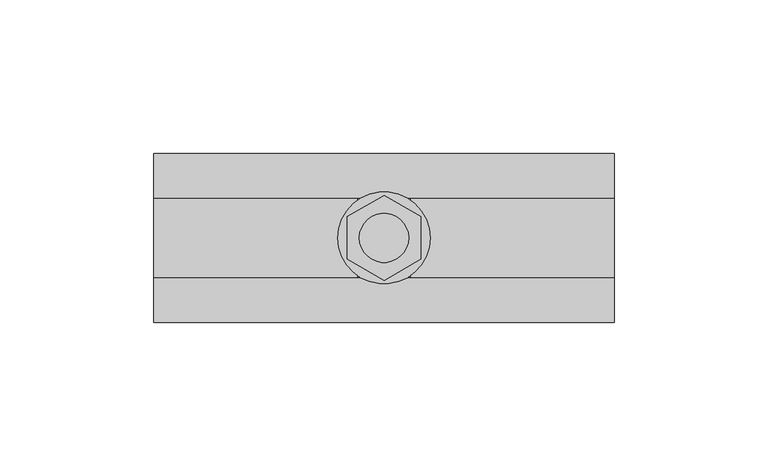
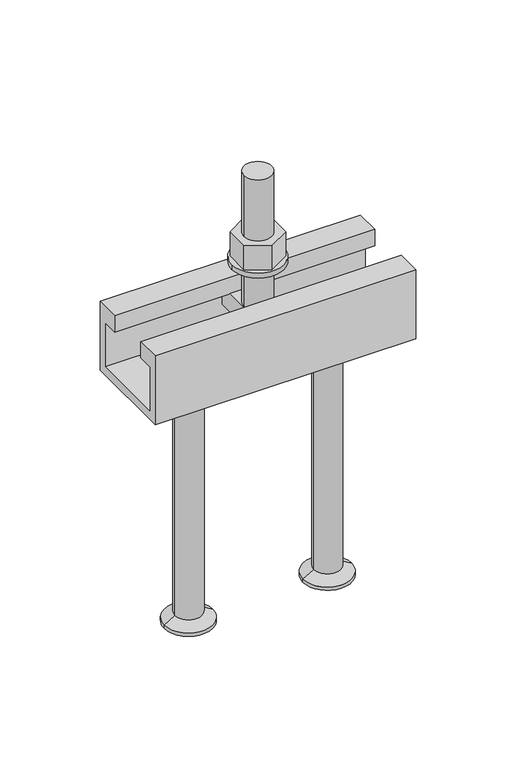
"""IFC4 building model written with IfcOpenShell, lengths in millimetres: fastener geometry, JTA-W JORDAHL® AnchorChannels : JTA-W L=150 mm."""

from ifc_helpers import new_model, si_unit, point, frame, frame_2d, origin, place, context, project, spatial, polyline, circle_curve, trimmed, segment, composite_curve, outline, extrude, source, transform, mapped, element, save
from ifc_brep_helpers import plane_surface, cylinder_surface, revolved_surface, advanced_brep


def fastener_27d0183c(model_context):
    return source(origin(), model_context, "Body", "SolidModel", [
        extrude(outline(polyline([(75.0, -13.8564065), (63.0, -6.9282032), (63.0, 6.9282032), (75.0, 13.8564065), (87.0, 6.9282032), (87.0, -6.9282032), (75.0, -13.8564065)]), holes=[composite_curve([segment(trimmed(circle_curve(frame_2d((75.0, 0.0)), 8.0), [point((67.0, 0.0))], [point((83.0, 0.0))], True, "CARTESIAN"), True, "CONTINUOUS"), segment(trimmed(circle_curve(frame_2d((75.0, 0.0)), 8.0), [point((83.0, 0.0))], [point((67.0, 0.0))], True, "CARTESIAN"), True, "CONTINUOUS")], self_intersect=False)]), frame((0.0, 0.0, 18.0), z_axis=(0.0, 0.0, 1.0), x_axis=(1.0, 0.0, 0.0)), (0.0, 0.0, 1.0), 14.8),
        extrude(outline(composite_curve([segment(trimmed(circle_curve(frame_2d((75.0, 0.0)), 15.0), [point((60.0, 0.0))], [point((90.0, 0.0))], False, "CARTESIAN"), True, "CONTINUOUS"), segment(trimmed(circle_curve(frame_2d((75.0, 0.0)), 15.0), [point((90.0, 0.0))], [point((60.0, 0.0))], False, "CARTESIAN"), True, "CONTINUOUS")], self_intersect=False), holes=[composite_curve([segment(trimmed(circle_curve(frame_2d((75.0, 0.0)), 8.5), [point((66.5, 0.0))], [point((83.5, 0.0))], True, "CARTESIAN"), True, "CONTINUOUS"), segment(trimmed(circle_curve(frame_2d((75.0, 0.0)), 8.5), [point((83.5, 0.0))], [point((66.5, 0.0))], True, "CARTESIAN"), True, "CONTINUOUS")], self_intersect=False)]), frame((0.0, 0.0, 15.0), z_axis=(0.0, 0.0, 1.0), x_axis=(1.0, 0.0, 0.0)), (0.0, 0.0, 1.0), 3.0),
        advanced_brep(
        [(83.5, -20.7, -10.0), (83.5, -20.7, -21.0), (83.5, 20.7, -21.0), (83.5, 20.7, -10.0), (66.5, -20.7, -10.0), (66.5, 20.7, -10.0), (66.5, 20.7, -21.0), (66.5, -20.7, -21.0), (83.0, 0.0, -10.0), (67.0, 0.0, -10.0), (67.0, 0.0, 70.0), (83.0, 0.0, 70.0)],
        [
            (0, 1),
            (1, 2),
            (2, 3),
            (3, 0),
            (4, 5),
            (5, 6),
            (6, 7),
            (7, 4),
            (3, 5),
            (4, 0),
            (8, 9, circle_curve(frame((75.0, 0.0, -10.0), z_axis=(0.0, 0.0, -1.0), x_axis=(1.0, 0.0, 0.0)), 8.0)),
            (9, 8, circle_curve(frame((75.0, 0.0, -10.0), z_axis=(0.0, 0.0, -1.0), x_axis=(1.0, 0.0, 0.0)), 8.0)),
            (2, 6),
            (1, 7),
            (10, 11, circle_curve(frame((75.0, 0.0, 70.0), z_axis=(0.0, 0.0, 1.0), x_axis=(1.0, 0.0, 0.0)), 8.0)),
            (11, 10, circle_curve(frame((75.0, 0.0, 70.0), z_axis=(0.0, 0.0, 1.0), x_axis=(1.0, 0.0, 0.0)), 8.0)),
            (11, 8),
            (9, 10),
        ],
        [
            plane_surface(frame((83.5, 20.7, -10.0), z_axis=(1.0, 0.0, 0.0), x_axis=(0.0, 1.0, 0.0))),
            plane_surface(frame((66.5, 20.7, -10.0), z_axis=(-1.0, 0.0, 0.0), x_axis=(0.0, -1.0, 0.0))),
            plane_surface(frame((83.5, -20.7, -10.0), z_axis=(0.0, 0.0, 1.0), x_axis=(-1.0, 0.0, 0.0))),
            plane_surface(frame((83.5, 20.7, -10.0), z_axis=(0.0, 1.0, 0.0), x_axis=(-1.0, 0.0, 0.0))),
            plane_surface(frame((83.5, 20.7, -21.0), z_axis=(0.0, 0.0, -1.0), x_axis=(-1.0, 0.0, 0.0))),
            plane_surface(frame((83.5, -20.7, -21.0), z_axis=(0.0, -1.0, 0.0), x_axis=(-1.0, 0.0, 0.0))),
            plane_surface(frame((83.0, 0.0, 70.0), z_axis=(0.0, 0.0, 1.0), x_axis=(0.0, -1.0, 0.0))),
            cylinder_surface(frame((75.0, 0.0, -10.0), z_axis=(0.0, 0.0, 1.0), x_axis=(1.0, 0.0, 0.0)), 8.0),
        ],
        [
            (0, [[1, 2, 3, 4]]),
            (1, [[5, 6, 7, 8]]),
            (2, [[9, -5, 10, -4], [11, 12]]),
            (3, [[13, -6, -9, -3]]),
            (4, [[14, -7, -13, -2]]),
            (5, [[-10, -8, -14, -1]]),
            (6, [[15, 16]]),
            (7, [[17, -12, 18, -16]]),
            (7, [[-18, -11, -17, -15]]),
        ],
    ),
        advanced_brep(
        [(115.0, 0.0, -42.0), (92.0, 0.0, -42.0), (138.0, 0.0, -42.0), (101.0, 0.0, -190.0), (115.0, 0.0, -190.0), (129.0, 0.0, -190.0), (101.0, 0.0, -188.0), (129.0, 0.0, -188.0), (107.2, 0.0, -184.4204283), (122.8, 0.0, -184.4204283), (107.2, 0.0, -46.0), (122.8, 0.0, -46.0)],
        [
            (0, 1),
            (1, 2, circle_curve(frame((115.0, 0.0, -42.0), z_axis=(0.0, 0.0, 1.0), x_axis=(1.0, 0.0, 0.0)), 23.0)),
            (2, 0),
            (2, 1, circle_curve(frame((115.0, 0.0, -42.0), z_axis=(0.0, 0.0, 1.0), x_axis=(1.0, 0.0, 0.0)), 23.0)),
            (3, 4),
            (4, 5),
            (5, 3, circle_curve(frame((115.0, 0.0, -190.0), z_axis=(0.0, 0.0, -1.0), x_axis=(1.0, 0.0, 0.0)), 14.0)),
            (3, 5, circle_curve(frame((115.0, 0.0, -190.0), z_axis=(0.0, 0.0, -1.0), x_axis=(1.0, 0.0, 0.0)), 14.0)),
            (6, 3),
            (5, 7),
            (7, 6, circle_curve(frame((115.0, 0.0, -188.0), z_axis=(0.0, 0.0, -1.0), x_axis=(1.0, 0.0, 0.0)), 14.0)),
            (6, 7, circle_curve(frame((115.0, 0.0, -188.0), z_axis=(0.0, 0.0, -1.0), x_axis=(1.0, 0.0, 0.0)), 14.0)),
            (8, 6),
            (7, 9),
            (9, 8, circle_curve(frame((115.0, 0.0, -184.4204283), z_axis=(0.0, 0.0, -1.0), x_axis=(1.0, 0.0, 0.0)), 7.8)),
            (8, 9, circle_curve(frame((115.0, 0.0, -184.4204283), z_axis=(0.0, 0.0, -1.0), x_axis=(1.0, 0.0, 0.0)), 7.8)),
            (10, 8),
            (9, 11),
            (11, 10, circle_curve(frame((115.0, 0.0, -46.0), z_axis=(0.0, 0.0, -1.0), x_axis=(1.0, 0.0, 0.0)), 7.8)),
            (10, 11, circle_curve(frame((115.0, 0.0, -46.0), z_axis=(0.0, 0.0, -1.0), x_axis=(1.0, 0.0, 0.0)), 7.8)),
            (1, 10),
            (11, 2),
        ],
        [
            plane_surface(frame((115.0, 0.0, -42.0), z_axis=(0.0, 0.0, 1.0), x_axis=(1.0, 0.0, 0.0))),
            plane_surface(frame((115.0, 0.0, -190.0), z_axis=(0.0, 0.0, -1.0), x_axis=(1.0, 0.0, 0.0))),
            cylinder_surface(frame((115.0, 0.0, 2362.3150031), z_axis=(0.0, 0.0, 1.0), x_axis=(1.0, 0.0, 0.0)), 14.0),
            revolved_surface(polyline([(129.0, 0.0, -188.0), (122.8, 0.0, -184.4204283)]), (115.0, 0.0, 2362.3150031), (0.0, 0.0, 1.0)),
            cylinder_surface(frame((115.0, 0.0, 2362.3150031), z_axis=(0.0, 0.0, 1.0), x_axis=(1.0, 0.0, 0.0)), 7.8),
            revolved_surface(polyline([(122.8, 0.0, -46.0), (138.0, 0.0, -42.0)]), (115.0, 0.0, 2362.3150031), (0.0, 0.0, 1.0)),
        ],
        [
            (0, [[1, 2, 3]]),
            (0, [[-3, 4, -1]]),
            (1, [[5, 6, 7]]),
            (1, [[-6, -5, 8]]),
            (2, [[9, -7, 10, 11]]),
            (2, [[-10, -8, -9, 12]]),
            (3, [[13, -11, 14, 15]]),
            (3, [[-14, -12, -13, 16]]),
            (4, [[17, -15, 18, 19]]),
            (4, [[-18, -16, -17, 20]]),
            (5, [[21, -19, 22, -2]]),
            (5, [[-22, -20, -21, -4]]),
        ],
    ),
        advanced_brep(
        [(35.0, 0.0, -42.0), (12.0, 0.0, -42.0), (58.0, 0.0, -42.0), (21.0, 0.0, -190.0), (35.0, 0.0, -190.0), (49.0, 0.0, -190.0), (21.0, 0.0, -188.0), (49.0, 0.0, -188.0), (27.2, 0.0, -184.4204283), (42.8, 0.0, -184.4204283), (27.2, 0.0, -46.0), (42.8, 0.0, -46.0)],
        [
            (0, 1),
            (1, 2, circle_curve(frame((35.0, 0.0, -42.0), z_axis=(0.0, 0.0, 1.0), x_axis=(1.0, 0.0, 0.0)), 23.0)),
            (2, 0),
            (2, 1, circle_curve(frame((35.0, 0.0, -42.0), z_axis=(0.0, 0.0, 1.0), x_axis=(1.0, 0.0, 0.0)), 23.0)),
            (3, 4),
            (4, 5),
            (5, 3, circle_curve(frame((35.0, 0.0, -190.0), z_axis=(0.0, 0.0, -1.0), x_axis=(1.0, 0.0, 0.0)), 14.0)),
            (3, 5, circle_curve(frame((35.0, 0.0, -190.0), z_axis=(0.0, 0.0, -1.0), x_axis=(1.0, 0.0, 0.0)), 14.0)),
            (6, 3),
            (5, 7),
            (7, 6, circle_curve(frame((35.0, 0.0, -188.0), z_axis=(0.0, 0.0, -1.0), x_axis=(1.0, 0.0, 0.0)), 14.0)),
            (6, 7, circle_curve(frame((35.0, 0.0, -188.0), z_axis=(0.0, 0.0, -1.0), x_axis=(1.0, 0.0, 0.0)), 14.0)),
            (8, 6),
            (7, 9),
            (9, 8, circle_curve(frame((35.0, 0.0, -184.4204283), z_axis=(0.0, 0.0, -1.0), x_axis=(1.0, 0.0, 0.0)), 7.8)),
            (8, 9, circle_curve(frame((35.0, 0.0, -184.4204283), z_axis=(0.0, 0.0, -1.0), x_axis=(1.0, 0.0, 0.0)), 7.8)),
            (10, 8),
            (9, 11),
            (11, 10, circle_curve(frame((35.0, 0.0, -46.0), z_axis=(0.0, 0.0, -1.0), x_axis=(1.0, 0.0, 0.0)), 7.8)),
            (10, 11, circle_curve(frame((35.0, 0.0, -46.0), z_axis=(0.0, 0.0, -1.0), x_axis=(1.0, 0.0, 0.0)), 7.8)),
            (1, 10),
            (11, 2),
        ],
        [
            plane_surface(frame((35.0, 0.0, -42.0), z_axis=(0.0, 0.0, 1.0), x_axis=(1.0, 0.0, 0.0))),
            plane_surface(frame((35.0, 0.0, -190.0), z_axis=(0.0, 0.0, -1.0), x_axis=(1.0, 0.0, 0.0))),
            cylinder_surface(frame((35.0, 0.0, 2362.3150031), z_axis=(0.0, 0.0, 1.0), x_axis=(1.0, 0.0, 0.0)), 14.0),
            revolved_surface(polyline([(49.0, 0.0, -188.0), (42.8, 0.0, -184.4204283)]), (35.0, 0.0, 2362.3150031), (0.0, 0.0, 1.0)),
            cylinder_surface(frame((35.0, 0.0, 2362.3150031), z_axis=(0.0, 0.0, 1.0), x_axis=(1.0, 0.0, 0.0)), 7.8),
            revolved_surface(polyline([(42.8, 0.0, -46.0), (58.0, 0.0, -42.0)]), (35.0, 0.0, 2362.3150031), (0.0, 0.0, 1.0)),
        ],
        [
            (0, [[1, 2, 3]]),
            (0, [[-3, 4, -1]]),
            (1, [[5, 6, 7]]),
            (1, [[-6, -5, 8]]),
            (2, [[9, -7, 10, 11]]),
            (2, [[-10, -8, -9, 12]]),
            (3, [[13, -11, 14, 15]]),
            (3, [[-14, -12, -13, 16]]),
            (4, [[17, -15, 18, 19]]),
            (4, [[-18, -16, -17, 20]]),
            (5, [[21, -19, 22, -2]]),
            (5, [[-22, -20, -21, -4]]),
        ],
    ),
        extrude(outline(polyline([(-27.5, 0.0), (-13.0, 0.0), (-13.0, -10.0), (-22.5, -10.0), (-22.5, -37.0), (22.5, -37.0), (22.5, -10.0), (13.0, -10.0), (13.0, 0.0), (27.5, 0.0), (27.5, -42.0), (-27.5, -42.0), (-27.5, 0.0)])), frame((0.0, 0.0, 0.0), z_axis=(1.0, 0.0, 0.0), x_axis=(0.0, 1.0, 0.0)), (0.0, 0.0, 1.0), 150.0),
    ])


if __name__ == "__main__":
    model = new_model("IFC4")
    model_context = context("Model", 3, world=origin())
    ifc_project = project(units=[si_unit("LENGTHUNIT", "METRE", prefix="MILLI")], contexts=[model_context])
    site = spatial("IfcSite", under=ifc_project)
    building = spatial("IfcBuilding", under=site)
    placement = place(None, origin())
    fastener_shape = fastener_27d0183c(model_context)
    element("IfcFastener", 1, ObjectType="JTA-W JORDAHL® AnchorChannels : JTA-W L=150 mm", at=placement, inside=building, context=model_context, shape_type="MappedRepresentation", body=[
        mapped(fastener_shape, transform((0.0, 0.0, 0.0), x_axis=(1.0, 0.0, 0.0), y_axis=(0.0, 1.0, 0.0), z_axis=(0.0, 0.0, 1.0))),
    ])
    save(model, "model.ifc")
